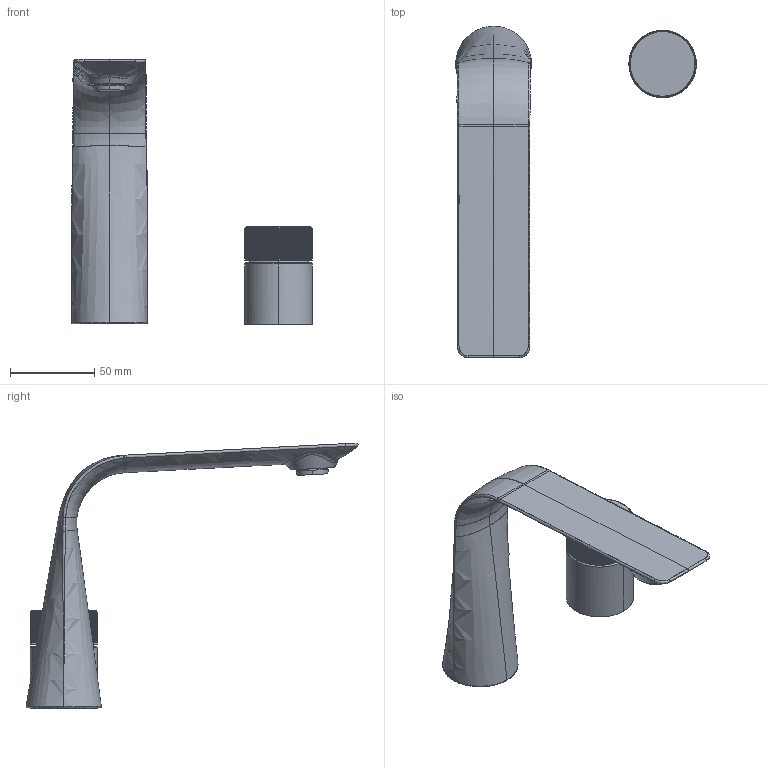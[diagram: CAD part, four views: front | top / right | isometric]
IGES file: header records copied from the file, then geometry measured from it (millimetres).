
Global section: file name: d:\users\matthias.isele\Desktop\planungsdaten_erstellen\D1\D11120009010\3D\a.igs; native system: Rhinoceros ( Sep 13 2016 ); preprocessor: Trout Lake IGES 012 Sep 13 2016; date: 190829.130629; units: millimetre
Bounding box: 142.81 x 197.03 x 157.83 mm (x, y, z)
Surface area: 54562.3 mm2 (no closed solid volume)
Topology: 0 solids, 0 shells, 1299 faces, 9188 edges, 9154 vertices
Faces by surface type: bspline 1299
